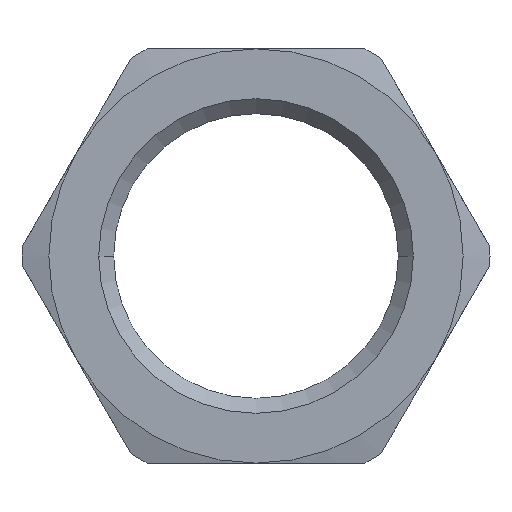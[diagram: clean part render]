
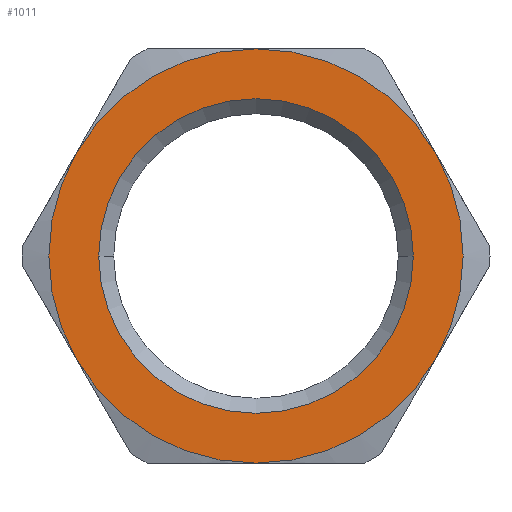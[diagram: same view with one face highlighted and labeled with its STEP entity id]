
A CAD part, left-side view. The second image highlights one B-rep face of the part: STEP entity #1011.
In plain terms, the highlighted planar face has unit normal (-1, 0, 0) as drawn and (0, 0, 1) by its records, which use the part's own axes.
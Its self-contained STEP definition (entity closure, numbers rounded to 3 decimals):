
#299=CARTESIAN_POINT('',(0.,10.25,3.));
#300=VERTEX_POINT('',#299);
#314=CARTESIAN_POINT('',(0.,-10.25,3.0));
#315=VERTEX_POINT('',#314);
#322=CARTESIAN_POINT('',(0.,0.,3.0));
#323=DIRECTION('',(0.0,0.0,-1.0));
#324=DIRECTION('',(0.0,1.0,0.0));
#325=AXIS2_PLACEMENT_3D('',#322,#323,#324);
#326=CIRCLE('',#325,10.25);
#327=EDGE_CURVE('',#300,#315,#326,.T.);
#338=CARTESIAN_POINT('',(0.,0.,3.0));
#339=DIRECTION('',(0.0,0.0,-1.0));
#340=DIRECTION('',(0.0,1.0,0.0));
#341=AXIS2_PLACEMENT_3D('',#338,#339,#340);
#342=CIRCLE('',#341,10.25);
#343=EDGE_CURVE('',#315,#300,#342,.T.);
#626=CARTESIAN_POINT('',(-13.5,0.,3.0));
#627=VERTEX_POINT('',#626);
#641=CARTESIAN_POINT('',(-6.75,11.691,3.0));
#642=VERTEX_POINT('',#641);
#643=CARTESIAN_POINT('',(0.,0.0,3.0));
#644=DIRECTION('',(0.0,0.0,1.0));
#645=DIRECTION('',(1.0,0.0,0.0));
#646=AXIS2_PLACEMENT_3D('',#643,#644,#645);
#647=CIRCLE('',#646,13.5);
#648=EDGE_CURVE('',#642,#627,#647,.T.);
#702=CARTESIAN_POINT('',(-6.75,-11.691,3.0));
#703=VERTEX_POINT('',#702);
#717=CARTESIAN_POINT('',(0.,0.0,3.0));
#718=DIRECTION('',(0.0,0.0,1.0));
#719=DIRECTION('',(1.0,0.0,0.0));
#720=AXIS2_PLACEMENT_3D('',#717,#718,#719);
#721=CIRCLE('',#720,13.5);
#722=EDGE_CURVE('',#627,#703,#721,.T.);
#764=CARTESIAN_POINT('',(6.75,-11.691,3.0));
#765=VERTEX_POINT('',#764);
#779=CARTESIAN_POINT('',(0.,0.0,3.0));
#780=DIRECTION('',(0.0,0.0,1.0));
#781=DIRECTION('',(1.0,0.0,0.0));
#782=AXIS2_PLACEMENT_3D('',#779,#780,#781);
#783=CIRCLE('',#782,13.5);
#784=EDGE_CURVE('',#703,#765,#783,.T.);
#827=CARTESIAN_POINT('',(13.5,0.0,3.0));
#828=VERTEX_POINT('',#827);
#842=CARTESIAN_POINT('',(0.,0.0,3.0));
#843=DIRECTION('',(0.0,0.0,1.0));
#844=DIRECTION('',(1.0,0.0,0.0));
#845=AXIS2_PLACEMENT_3D('',#842,#843,#844);
#846=CIRCLE('',#845,13.5);
#847=EDGE_CURVE('',#765,#828,#846,.T.);
#872=CARTESIAN_POINT('',(6.75,11.691,3.0));
#873=VERTEX_POINT('',#872);
#874=CARTESIAN_POINT('',(0.,0.0,3.0));
#875=DIRECTION('',(0.0,0.0,1.0));
#876=DIRECTION('',(1.0,0.0,0.0));
#877=AXIS2_PLACEMENT_3D('',#874,#875,#876);
#878=CIRCLE('',#877,13.5);
#879=EDGE_CURVE('',#873,#642,#878,.T.);
#917=CARTESIAN_POINT('',(0.,0.0,3.0));
#918=DIRECTION('',(0.0,0.0,1.0));
#919=DIRECTION('',(1.0,0.0,0.0));
#920=AXIS2_PLACEMENT_3D('',#917,#918,#919);
#921=CIRCLE('',#920,13.5);
#922=EDGE_CURVE('',#828,#873,#921,.T.);
#994=CARTESIAN_POINT('',(0.,0.,3.0));
#995=DIRECTION('',(0.0,0.0,1.0));
#996=DIRECTION('',(1.0,0.0,0.0));
#997=AXIS2_PLACEMENT_3D('',#994,#995,#996);
#998=PLANE('',#997);
#999=ORIENTED_EDGE('',*,*,#847,.T.);
#1000=ORIENTED_EDGE('',*,*,#922,.T.);
#1001=ORIENTED_EDGE('',*,*,#879,.T.);
#1002=ORIENTED_EDGE('',*,*,#648,.T.);
#1003=ORIENTED_EDGE('',*,*,#722,.T.);
#1004=ORIENTED_EDGE('',*,*,#784,.T.);
#1005=EDGE_LOOP('',(#999,#1000,#1001,#1002,#1003,#1004));
#1006=FACE_OUTER_BOUND('',#1005,.T.);
#1007=ORIENTED_EDGE('',*,*,#327,.T.);
#1008=ORIENTED_EDGE('',*,*,#343,.T.);
#1009=EDGE_LOOP('',(#1007,#1008));
#1010=FACE_BOUND('',#1009,.T.);
#1011=ADVANCED_FACE('',(#1006,#1010),#998,.T.);
